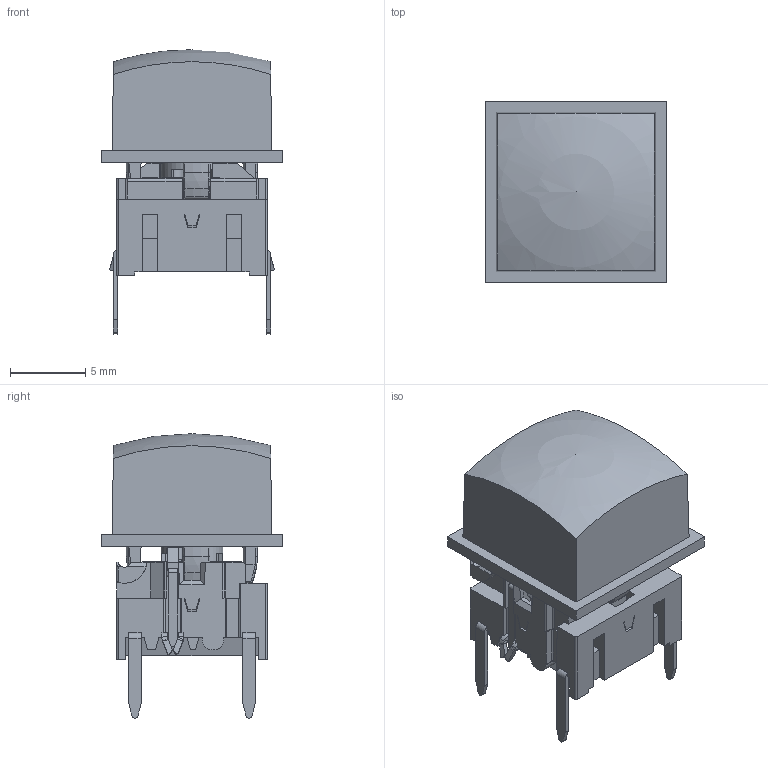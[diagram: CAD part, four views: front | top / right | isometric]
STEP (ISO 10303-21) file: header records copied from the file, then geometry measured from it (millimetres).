
FILE_DESCRIPTION(/* description */ (''),/* implementation_level */ '2;1');
FILE_NAME(/* name */ 'C:\Users\cgh.MEC\Desktop\Traceparts - 3D programserie\STEP filer\il-TH\5GTH9xxxxxxx+1TS.stp',/* time_stamp */ '2016-02-29T07:57:56+01:00',/* author */ ('cgh'),/* organization */ (''),/* preprocessor_version */ 'ST-DEVELOPER v15.2',/* originating_system */ 'Autodesk Inventor 2014',/* authorisation */ '');
FILE_SCHEMA (('AUTOMOTIVE_DESIGN { 1 0 10303 214 3 1 1 }'));
Length unit declared in the file: centimetre
Products named in the file (1): cgh
Bounding box: 12.06 x 12.06 x 18.95 mm (x, y, z)
Volume: 906.6 mm3; surface area: 2026.6 mm2
Topology: 1 solids, 1 shells, 1346 faces, 3803 edges, 2479 vertices
Faces by surface type: plane 844, cylinder 221, bspline 164, torus 64, cone 42, sphere 11
Full cylindrical faces by diameter (mm): 0.9 x1, 1 x3, 2.8 x1, 4.73 x1, 6.5 x1, 7.2 x1, 7.44 x1
Entity records: 48174 total; most frequent: CARTESIAN_POINT 12987, ORIENTED_EDGE 7536, DIRECTION 6348, EDGE_CURVE 3760, VERTEX_POINT 2465, LINE 2424, VECTOR 2424, AXIS2_PLACEMENT_3D 1962
